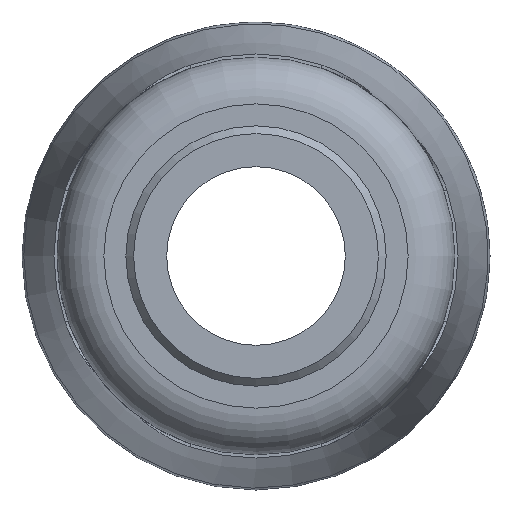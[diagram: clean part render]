
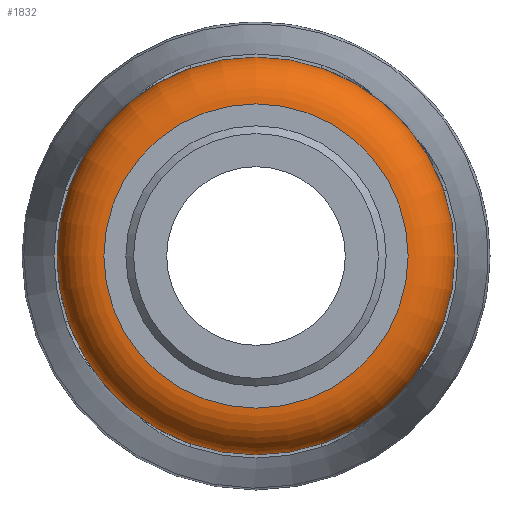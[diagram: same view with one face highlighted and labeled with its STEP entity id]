
A CAD part, left-side view. The second image highlights one B-rep face of the part: STEP entity #1832.
In plain terms, the highlighted toroidal (fillet/blend) face has major radius 33.475 mm and minor radius 10.3 mm.
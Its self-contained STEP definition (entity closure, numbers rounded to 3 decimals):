
#16=TOROIDAL_SURFACE('',#2004,33.475,10.3);
#385=FACE_BOUND('',#546,.T.);
#428=FACE_OUTER_BOUND('',#545,.T.);
#545=EDGE_LOOP('',(#1363));
#546=EDGE_LOOP('',(#1364));
#669=CIRCLE('',#1982,43.775);
#682=CIRCLE('',#2005,33.475);
#795=VERTEX_POINT('',#3090);
#807=VERTEX_POINT('',#3175);
#989=EDGE_CURVE('',#795,#795,#669,.T.);
#1008=EDGE_CURVE('',#807,#807,#682,.T.);
#1363=ORIENTED_EDGE('',*,*,#1008,.T.);
#1364=ORIENTED_EDGE('',*,*,#989,.T.);
#1832=ADVANCED_FACE('',(#428,#385),#16,.T.);
#1982=AXIS2_PLACEMENT_3D('',#3091,#2289,#2290);
#2004=AXIS2_PLACEMENT_3D('',#3174,#2335,#2336);
#2005=AXIS2_PLACEMENT_3D('',#3176,#2337,#2338);
#2289=DIRECTION('center_axis',(-1.,0.,0.));
#2290=DIRECTION('ref_axis',(0.,-1.,0.));
#2335=DIRECTION('center_axis',(1.,0.,0.));
#2336=DIRECTION('ref_axis',(0.,0.,-1.));
#2337=DIRECTION('center_axis',(1.,0.,0.));
#2338=DIRECTION('ref_axis',(0.,-1.,0.));
#3090=CARTESIAN_POINT('',(33.3,43.775,0.));
#3091=CARTESIAN_POINT('Origin',(33.3,0.,0.));
#3174=CARTESIAN_POINT('Origin',(33.3,0.,0.));
#3175=CARTESIAN_POINT('',(23.,33.475,0.));
#3176=CARTESIAN_POINT('Origin',(23.,0.,0.));
